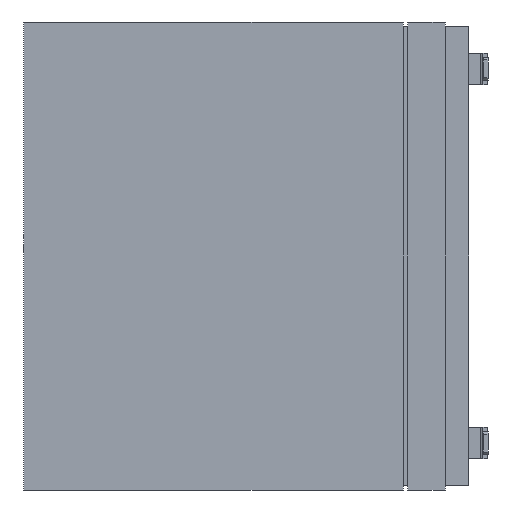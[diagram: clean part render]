
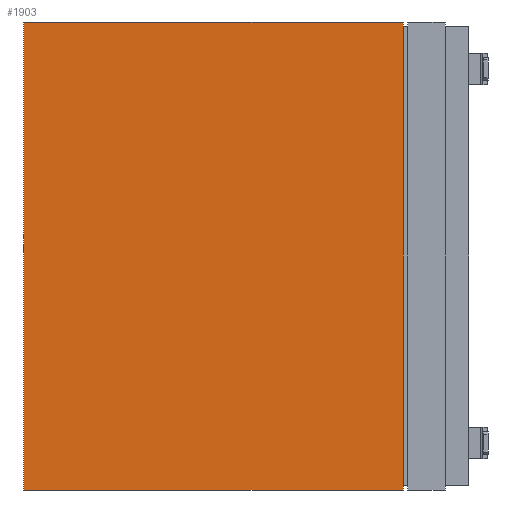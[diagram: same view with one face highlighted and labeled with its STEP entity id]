
A CAD part, left-side view. The second image highlights one B-rep face of the part: STEP entity #1903.
In plain terms, the highlighted planar face has unit normal (-1, 0, 0).
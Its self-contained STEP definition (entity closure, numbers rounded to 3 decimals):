
#83 = LINE ( 'NONE', #1633, #2845 ) ;
#112 = EDGE_CURVE ( 'NONE', #2663, #1155, #906, .T. ) ;
#314 = AXIS2_PLACEMENT_3D ( 'NONE', #3384, #863, #2159 ) ;
#500 = ORIENTED_EDGE ( 'NONE', *, *, #112, .T. ) ;
#524 = CARTESIAN_POINT ( 'NONE',  ( -75.5, -81., -50. ) ) ;
#647 = LINE ( 'NONE', #3104, #1856 ) ;
#752 = DIRECTION ( 'NONE',  ( 0., 0., 1. ) ) ;
#863 = DIRECTION ( 'NONE',  ( -1., 0., 0. ) ) ;
#906 = LINE ( 'NONE', #1980, #2988 ) ;
#939 = VECTOR ( 'NONE', #752, 1000. ) ;
#997 = EDGE_CURVE ( 'NONE', #2663, #1583, #647, .T. ) ;
#1155 = VERTEX_POINT ( 'NONE', #2339 ) ;
#1197 = ORIENTED_EDGE ( 'NONE', *, *, #3041, .F. ) ;
#1216 = EDGE_CURVE ( 'NONE', #2128, #1155, #2178, .T. ) ;
#1374 = EDGE_LOOP ( 'NONE', ( #1197, #2487, #500, #3244 ) ) ;
#1508 = DIRECTION ( 'NONE',  ( 0., 0., -1. ) ) ;
#1564 = CARTESIAN_POINT ( 'NONE',  ( -75.5, 0., 50. ) ) ;
#1583 = VERTEX_POINT ( 'NONE', #524 ) ;
#1612 = DIRECTION ( 'NONE',  ( 0., 1., 0. ) ) ;
#1633 = CARTESIAN_POINT ( 'NONE',  ( -75.5, -95., -50. ) ) ;
#1684 = CARTESIAN_POINT ( 'NONE',  ( -75.5, -81., 50. ) ) ;
#1738 = DIRECTION ( 'NONE',  ( 0., 1., 0. ) ) ;
#1856 = VECTOR ( 'NONE', #1508, 1000. ) ;
#1903 = ADVANCED_FACE ( 'NONE', ( #3017 ), #2013, .T. ) ;
#1980 = CARTESIAN_POINT ( 'NONE',  ( -75.5, -95., 50. ) ) ;
#2013 = PLANE ( 'NONE',  #314 ) ;
#2128 = VERTEX_POINT ( 'NONE', #2525 ) ;
#2159 = DIRECTION ( 'NONE',  ( 0., 0., 1. ) ) ;
#2178 = LINE ( 'NONE', #1564, #939 ) ;
#2339 = CARTESIAN_POINT ( 'NONE',  ( -75.5, 0., 50. ) ) ;
#2487 = ORIENTED_EDGE ( 'NONE', *, *, #997, .F. ) ;
#2525 = CARTESIAN_POINT ( 'NONE',  ( -75.5, 0., -50. ) ) ;
#2663 = VERTEX_POINT ( 'NONE', #1684 ) ;
#2845 = VECTOR ( 'NONE', #1612, 1000. ) ;
#2988 = VECTOR ( 'NONE', #1738, 1000. ) ;
#3017 = FACE_OUTER_BOUND ( 'NONE', #1374, .T. ) ;
#3041 = EDGE_CURVE ( 'NONE', #1583, #2128, #83, .T. ) ;
#3104 = CARTESIAN_POINT ( 'NONE',  ( -75.5, -81., 50. ) ) ;
#3244 = ORIENTED_EDGE ( 'NONE', *, *, #1216, .F. ) ;
#3384 = CARTESIAN_POINT ( 'NONE',  ( -75.5, -95., 50. ) ) ;
